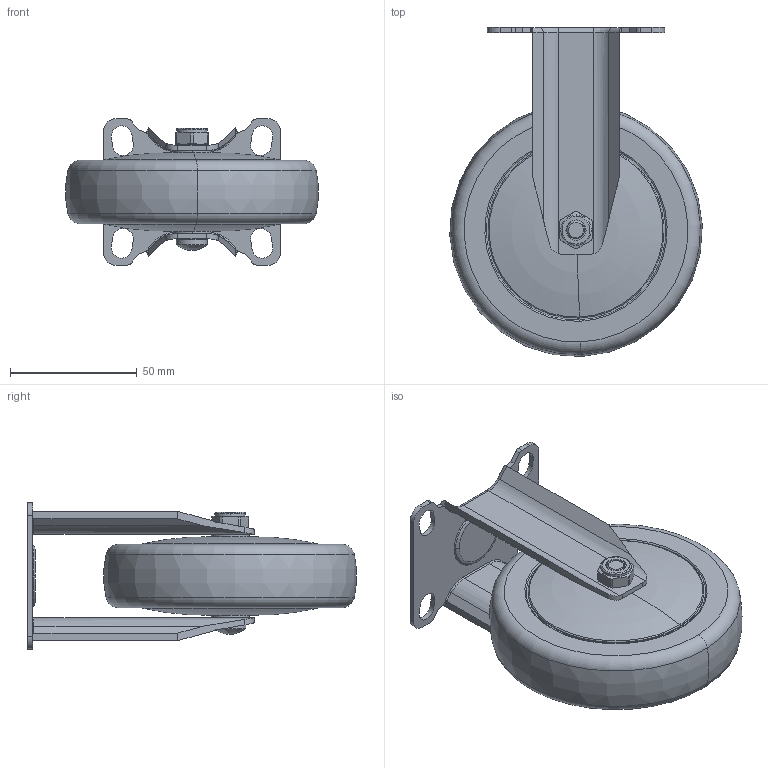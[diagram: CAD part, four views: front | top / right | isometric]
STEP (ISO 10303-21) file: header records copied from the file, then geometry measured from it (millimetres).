
FILE_DESCRIPTION (( 'STEP AP214' ), '1' );
FILE_NAME ('37204-374-67 ¶¨Ïò.STEP', '2019-12-13T23:56:25', ( 'Owner' ), ( 'Organization' ), 'SwSTEP 2.0', 'SolidWorks 2014', '' );
FILE_SCHEMA (( 'AUTOMOTIVE_DESIGN' ));
Length unit declared in the file: millimetre
Products named in the file (6): 37204-374-67 隅砃; 350-33a; 300-34; 374-907; 374-10; 价陬
Assembly tree (5 placements, depth 3):
  37204-374-67 隅砃
    374-10
    价陬
      300-34
      350-33a
    374-907
Bounding box: 99.71 x 129.85 x 57.8 mm (x, y, z)
Volume: 223288.2 mm3; surface area: 44978.9 mm2
Topology: 4 solids, 4 shells, 257 faces, 670 edges, 427 vertices
Faces by surface type: cylinder 100, plane 80, bspline 36, torus 22, cone 19
Entity records: 85186 total; most frequent: CARTESIAN_POINT 78913, ORIENTED_EDGE 1336, DIRECTION 1196, EDGE_CURVE 668, AXIS2_PLACEMENT_3D 456, VERTEX_POINT 427, VECTOR 284, LINE 284
